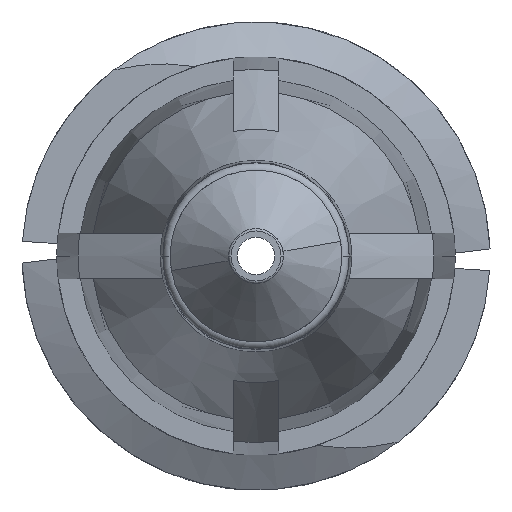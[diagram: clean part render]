
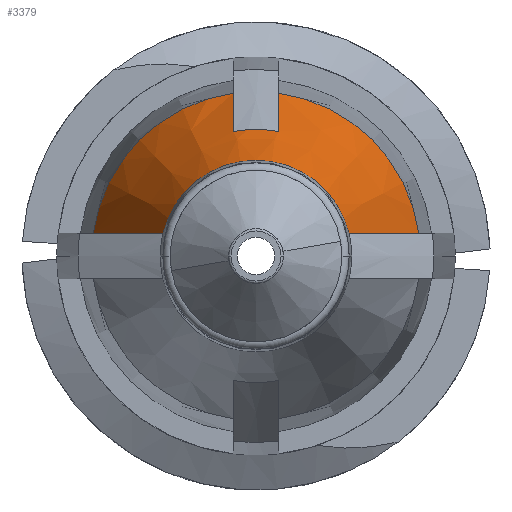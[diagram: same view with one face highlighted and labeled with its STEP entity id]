
A CAD part, front view. The second image highlights one B-rep face of the part: STEP entity #3379.
In plain terms, the highlighted conical face has half-angle 20 degrees and reference radius 2.745 mm.
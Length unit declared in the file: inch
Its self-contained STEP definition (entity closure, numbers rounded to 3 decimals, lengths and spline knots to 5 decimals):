
#9 = CIRCLE ( 'NONE', #2208, 0.08335 ) ;
#29 = CARTESIAN_POINT ( 'NONE',  ( -0.06119, -0.52985, 0.015 ) ) ;
#66 = CARTESIAN_POINT ( 'NONE',  ( 0.10703, -0.406, 0.015 ) ) ;
#85 = VERTEX_POINT ( 'NONE', #1473 ) ;
#90 = EDGE_CURVE ( 'NONE', #1528, #1989, #2789, .T. ) ;
#118 = B_SPLINE_CURVE_WITH_KNOTS ( 'NONE', 3,
 ( #1196, #389, #915, #373 ),
 .UNSPECIFIED., .F., .F.,
 ( 4, 4 ),
 ( 0.00247, 0.00431 ),
 .UNSPECIFIED. ) ;
#229 = CARTESIAN_POINT ( 'NONE',  ( -0.015, -0.406, 0.10703 ) ) ;
#234 = ORIENTED_EDGE ( 'NONE', *, *, #1214, .F. ) ;
#238 = CARTESIAN_POINT ( 'NONE',  ( 0., -0.52985, 0. ) ) ;
#280 = CARTESIAN_POINT ( 'NONE',  ( 0.10703, -0.406, 0.015 ) ) ;
#301 = CARTESIAN_POINT ( 'NONE',  ( -0.015, -0.47395, 0.08198 ) ) ;
#373 = CARTESIAN_POINT ( 'NONE',  ( 0.015, -0.406, 0.10703 ) ) ;
#381 = VERTEX_POINT ( 'NONE', #280 ) ;
#389 = CARTESIAN_POINT ( 'NONE',  ( 0.015, -0.45131, 0.09036 ) ) ;
#425 = DIRECTION ( 'NONE',  ( 1., 0., 0. ) ) ;
#538 = CARTESIAN_POINT ( 'NONE',  ( -0.07664, -0.48863, 0.015 ) ) ;
#572 = AXIS2_PLACEMENT_3D ( 'NONE', #3236, #882, #1128 ) ;
#667 = ORIENTED_EDGE ( 'NONE', *, *, #90, .F. ) ;
#675 = B_SPLINE_CURVE_WITH_KNOTS ( 'NONE', 3,
 ( #3039, #2759, #2425, #66 ),
 .UNSPECIFIED., .F., .F.,
 ( 4, 4 ),
 ( 0.00282, 0.00617 ),
 .UNSPECIFIED. ) ;
#684 = ORIENTED_EDGE ( 'NONE', *, *, #1772, .F. ) ;
#714 = B_SPLINE_CURVE_WITH_KNOTS ( 'NONE', 3,
 ( #2923, #1576, #799, #301 ),
 .UNSPECIFIED., .F., .F.,
 ( 4, 4 ),
 ( 0.00343, 0.00527 ),
 .UNSPECIFIED. ) ;
#767 = CONICAL_SURFACE ( 'NONE', #2760, 0.10808, 0.349 ) ;
#799 = CARTESIAN_POINT ( 'NONE',  ( -0.015, -0.45131, 0.09036 ) ) ;
#825 = EDGE_CURVE ( 'NONE', #2303, #381, #675, .T. ) ;
#840 = EDGE_CURVE ( 'NONE', #2179, #381, #3291, .T. ) ;
#842 = EDGE_CURVE ( 'NONE', #1989, #1451, #2674, .T. ) ;
#853 = CARTESIAN_POINT ( 'NONE',  ( -0.10703, -0.406, 0.015 ) ) ;
#882 = DIRECTION ( 'NONE',  ( 0., 1., 0. ) ) ;
#915 = CARTESIAN_POINT ( 'NONE',  ( 0.015, -0.42866, 0.0987 ) ) ;
#1056 = DIRECTION ( 'NONE',  ( -1., 0., 0. ) ) ;
#1100 = CARTESIAN_POINT ( 'NONE',  ( 0., -0.406, 0. ) ) ;
#1112 = ORIENTED_EDGE ( 'NONE', *, *, #840, .F. ) ;
#1128 = DIRECTION ( 'NONE',  ( -1., 0., 0. ) ) ;
#1196 = CARTESIAN_POINT ( 'NONE',  ( 0.015, -0.47395, 0.08198 ) ) ;
#1214 = EDGE_CURVE ( 'NONE', #1451, #2704, #714, .T. ) ;
#1348 = CARTESIAN_POINT ( 'NONE',  ( -0.10703, -0.406, 0.015 ) ) ;
#1411 = CARTESIAN_POINT ( 'NONE',  ( 0.06119, -0.52985, 0.015 ) ) ;
#1431 = DIRECTION ( 'NONE',  ( -1., 0., 0. ) ) ;
#1451 = VERTEX_POINT ( 'NONE', #229 ) ;
#1473 = CARTESIAN_POINT ( 'NONE',  ( 0.015, -0.47395, 0.08198 ) ) ;
#1528 = VERTEX_POINT ( 'NONE', #29 ) ;
#1535 = CARTESIAN_POINT ( 'NONE',  ( 0., -0.47395, 0. ) ) ;
#1576 = CARTESIAN_POINT ( 'NONE',  ( -0.015, -0.42866, 0.0987 ) ) ;
#1599 = EDGE_CURVE ( 'NONE', #85, #2179, #118, .T. ) ;
#1772 = EDGE_CURVE ( 'NONE', #2704, #85, #9, .T. ) ;
#1857 = CARTESIAN_POINT ( 'NONE',  ( -0.06119, -0.52985, 0.015 ) ) ;
#1892 = EDGE_LOOP ( 'NONE', ( #667, #2738, #2606, #1112, #2798, #684, #234, #2770 ) ) ;
#1933 = DIRECTION ( 'NONE',  ( 0., 1., 0. ) ) ;
#1950 = CARTESIAN_POINT ( 'NONE',  ( 0., -0.406, 0. ) ) ;
#1989 = VERTEX_POINT ( 'NONE', #853 ) ;
#2091 = AXIS2_PLACEMENT_3D ( 'NONE', #1950, #1933, #1431 ) ;
#2121 = DIRECTION ( 'NONE',  ( -1., 0., 0. ) ) ;
#2179 = VERTEX_POINT ( 'NONE', #3446 ) ;
#2208 = AXIS2_PLACEMENT_3D ( 'NONE', #1535, #2284, #425 ) ;
#2284 = DIRECTION ( 'NONE',  ( 0., 1., 0. ) ) ;
#2303 = VERTEX_POINT ( 'NONE', #1411 ) ;
#2325 = AXIS2_PLACEMENT_3D ( 'NONE', #238, #2656, #1056 ) ;
#2425 = CARTESIAN_POINT ( 'NONE',  ( 0.09185, -0.44732, 0.015 ) ) ;
#2606 = ORIENTED_EDGE ( 'NONE', *, *, #825, .T. ) ;
#2612 = FACE_OUTER_BOUND ( 'NONE', #1892, .T. ) ;
#2656 = DIRECTION ( 'NONE',  ( 0., 1., 0. ) ) ;
#2659 = CARTESIAN_POINT ( 'NONE',  ( -0.015, -0.47395, 0.08198 ) ) ;
#2674 = CIRCLE ( 'NONE', #2091, 0.10808 ) ;
#2704 = VERTEX_POINT ( 'NONE', #2659 ) ;
#2738 = ORIENTED_EDGE ( 'NONE', *, *, #3330, .T. ) ;
#2759 = CARTESIAN_POINT ( 'NONE',  ( 0.07664, -0.48863, 0.015 ) ) ;
#2760 = AXIS2_PLACEMENT_3D ( 'NONE', #1100, #2926, #2121 ) ;
#2770 = ORIENTED_EDGE ( 'NONE', *, *, #842, .F. ) ;
#2789 = B_SPLINE_CURVE_WITH_KNOTS ( 'NONE', 3,
 ( #1857, #538, #2953, #1348 ),
 .UNSPECIFIED., .F., .F.,
 ( 4, 4 ),
 ( 0.00282, 0.00617 ),
 .UNSPECIFIED. ) ;
#2798 = ORIENTED_EDGE ( 'NONE', *, *, #1599, .F. ) ;
#2923 = CARTESIAN_POINT ( 'NONE',  ( -0.015, -0.406, 0.10703 ) ) ;
#2926 = DIRECTION ( 'NONE',  ( 0., 1., 0. ) ) ;
#2953 = CARTESIAN_POINT ( 'NONE',  ( -0.09185, -0.44732, 0.015 ) ) ;
#3039 = CARTESIAN_POINT ( 'NONE',  ( 0.06119, -0.52985, 0.015 ) ) ;
#3236 = CARTESIAN_POINT ( 'NONE',  ( 0., -0.406, 0. ) ) ;
#3291 = CIRCLE ( 'NONE', #572, 0.10808 ) ;
#3330 = EDGE_CURVE ( 'NONE', #1528, #2303, #3368, .T. ) ;
#3368 = CIRCLE ( 'NONE', #2325, 0.063 ) ;
#3379 = ADVANCED_FACE ( 'NONE', ( #2612 ), #767, .T. ) ;
#3446 = CARTESIAN_POINT ( 'NONE',  ( 0.015, -0.406, 0.10703 ) ) ;
